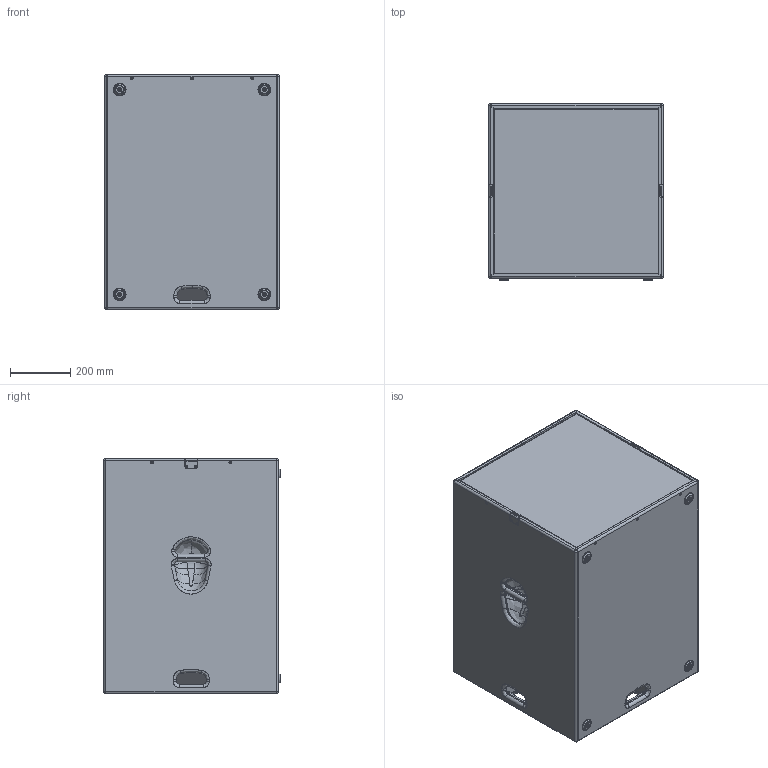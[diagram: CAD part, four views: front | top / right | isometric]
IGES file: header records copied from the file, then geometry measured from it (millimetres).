
Start section: SolidWorks IGES file using analytic representation for surfaces
Global section: file name: C:\Users\Michl\Desktop\3d-Dateien_Homepage\SEEBURG_G-Sub-1801.IGS; native system: SolidWorks 2009; preprocessor: SolidWorks 2009; author: Michl; date: 190902.132406; units: millimetre
Bounding box: 580 x 585.5 x 780 mm (x, y, z)
Surface area: 5539385.1 mm2 (no closed solid volume)
Topology: 0 solids, 0 shells, 1010 faces, 12262 edges, 12261 vertices
Faces by surface type: bspline 523, revolution 487
